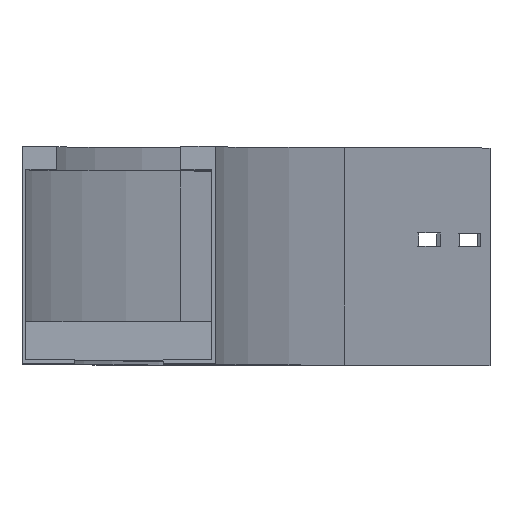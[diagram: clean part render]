
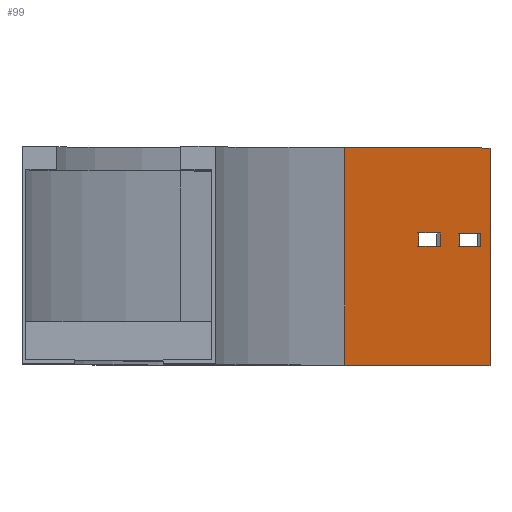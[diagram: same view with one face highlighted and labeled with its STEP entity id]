
A CAD part, top view. The second image highlights one B-rep face of the part: STEP entity #99.
In plain terms, the highlighted planar face has unit normal (0.866, 0, 0.5).
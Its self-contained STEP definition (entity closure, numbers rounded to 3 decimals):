
#7 = EDGE_CURVE ( 'NONE', #2096, #3637, #2735, .T. ) ;
#56 = DIRECTION ( 'NONE',  ( 0., 1., 0. ) ) ;
#66 = VERTEX_POINT ( 'NONE', #1250 ) ;
#92 = LINE ( 'NONE', #2972, #2050 ) ;
#99 = ADVANCED_FACE ( 'NONE', ( #3290, #1798, #3590 ), #2113, .F. ) ;
#103 = CARTESIAN_POINT ( 'NONE',  ( 141.987, 0., -529.904 ) ) ;
#143 = VECTOR ( 'NONE', #3185, 1000. ) ;
#153 = ORIENTED_EDGE ( 'NONE', *, *, #637, .F. ) ;
#199 = DIRECTION ( 'NONE',  ( 0., 1., 0. ) ) ;
#243 = VECTOR ( 'NONE', #199, 1000. ) ;
#285 = CARTESIAN_POINT ( 'NONE',  ( 141.987, 112.5, -529.904 ) ) ;
#317 = VECTOR ( 'NONE', #3155, 1000. ) ;
#472 = ORIENTED_EDGE ( 'NONE', *, *, #2457, .T. ) ;
#500 = DIRECTION ( 'NONE',  ( -0.5, 0., 0.866 ) ) ;
#515 = VECTOR ( 'NONE', #674, 1000. ) ;
#544 = DIRECTION ( 'NONE',  ( 0., -1., 0. ) ) ;
#577 = ORIENTED_EDGE ( 'NONE', *, *, #7, .F. ) ;
#597 = ORIENTED_EDGE ( 'NONE', *, *, #1086, .F. ) ;
#637 = EDGE_CURVE ( 'NONE', #2824, #3291, #1013, .T. ) ;
#643 = VECTOR ( 'NONE', #1902, 1000. ) ;
#645 = DIRECTION ( 'NONE',  ( -0.866, 0., -0.5 ) ) ;
#674 = DIRECTION ( 'NONE',  ( 0.5, 0., -0.866 ) ) ;
#692 = LINE ( 'NONE', #714, #643 ) ;
#714 = CARTESIAN_POINT ( 'NONE',  ( 137.07, 61.5, -521.386 ) ) ;
#733 = CARTESIAN_POINT ( 'NONE',  ( 66.987, 0., -400. ) ) ;
#770 = LINE ( 'NONE', #3690, #243 ) ;
#800 = LINE ( 'NONE', #1967, #2863 ) ;
#859 = CARTESIAN_POINT ( 'NONE',  ( 137.07, 61.5, -521.386 ) ) ;
#898 = EDGE_CURVE ( 'NONE', #2401, #967, #3004, .T. ) ;
#917 = DIRECTION ( 'NONE',  ( 0.5, 0., -0.866 ) ) ;
#967 = VERTEX_POINT ( 'NONE', #3272 ) ;
#991 = CARTESIAN_POINT ( 'NONE',  ( 137.07, 68.5, -521.386 ) ) ;
#1013 = LINE ( 'NONE', #991, #1115 ) ;
#1047 = DIRECTION ( 'NONE',  ( -0.5, 0., 0.866 ) ) ;
#1086 = EDGE_CURVE ( 'NONE', #3637, #2238, #3698, .T. ) ;
#1115 = VECTOR ( 'NONE', #1047, 1000. ) ;
#1130 = EDGE_CURVE ( 'NONE', #2096, #1513, #2226, .T. ) ;
#1134 = EDGE_LOOP ( 'NONE', ( #2204, #1679, #1495, #3531 ) ) ;
#1213 = EDGE_CURVE ( 'NONE', #1612, #66, #3459, .T. ) ;
#1250 = CARTESIAN_POINT ( 'NONE',  ( 116.235, 68.5, -485.299 ) ) ;
#1289 = CARTESIAN_POINT ( 'NONE',  ( 137.07, 68.5, -521.386 ) ) ;
#1492 = EDGE_CURVE ( 'NONE', #2496, #2923, #692, .T. ) ;
#1495 = ORIENTED_EDGE ( 'NONE', *, *, #2746, .F. ) ;
#1513 = VERTEX_POINT ( 'NONE', #103 ) ;
#1529 = ORIENTED_EDGE ( 'NONE', *, *, #2516, .F. ) ;
#1540 = CARTESIAN_POINT ( 'NONE',  ( 66.987, 0., -400. ) ) ;
#1612 = VERTEX_POINT ( 'NONE', #2297 ) ;
#1659 = CARTESIAN_POINT ( 'NONE',  ( 116.235, 68.5, -485.299 ) ) ;
#1679 = ORIENTED_EDGE ( 'NONE', *, *, #1213, .F. ) ;
#1784 = CARTESIAN_POINT ( 'NONE',  ( 66.987, 112.5, -400. ) ) ;
#1798 = FACE_BOUND ( 'NONE', #1134, .T. ) ;
#1812 = CARTESIAN_POINT ( 'NONE',  ( 105.235, 68.5, -466.247 ) ) ;
#1817 = DIRECTION ( 'NONE',  ( -0.5, 0., 0.866 ) ) ;
#1863 = VECTOR ( 'NONE', #2371, 1000. ) ;
#1865 = CARTESIAN_POINT ( 'NONE',  ( 66.987, 112.5, -400. ) ) ;
#1902 = DIRECTION ( 'NONE',  ( 0.5, 0., -0.866 ) ) ;
#1909 = CARTESIAN_POINT ( 'NONE',  ( 137.07, 68.5, -521.386 ) ) ;
#1915 = CARTESIAN_POINT ( 'NONE',  ( 105.235, 68.5, -466.247 ) ) ;
#1939 = CARTESIAN_POINT ( 'NONE',  ( 126.07, 61.5, -502.334 ) ) ;
#1967 = CARTESIAN_POINT ( 'NONE',  ( 116.235, 68.5, -485.299 ) ) ;
#1981 = ORIENTED_EDGE ( 'NONE', *, *, #3148, .F. ) ;
#1985 = DIRECTION ( 'NONE',  ( 0.5, 0., -0.866 ) ) ;
#2043 = VECTOR ( 'NONE', #56, 1000. ) ;
#2047 = EDGE_LOOP ( 'NONE', ( #597, #577, #2321, #472 ) ) ;
#2050 = VECTOR ( 'NONE', #917, 1000. ) ;
#2062 = VECTOR ( 'NONE', #1985, 1000. ) ;
#2096 = VERTEX_POINT ( 'NONE', #733 ) ;
#2113 = PLANE ( 'NONE',  #3038 ) ;
#2204 = ORIENTED_EDGE ( 'NONE', *, *, #3026, .F. ) ;
#2226 = LINE ( 'NONE', #2890, #2062 ) ;
#2238 = VERTEX_POINT ( 'NONE', #285 ) ;
#2269 = EDGE_LOOP ( 'NONE', ( #1529, #153, #1981, #3478 ) ) ;
#2294 = LINE ( 'NONE', #3255, #3745 ) ;
#2297 = CARTESIAN_POINT ( 'NONE',  ( 116.235, 61.5, -485.299 ) ) ;
#2321 = ORIENTED_EDGE ( 'NONE', *, *, #1130, .T. ) ;
#2371 = DIRECTION ( 'NONE',  ( 0., -1., 0. ) ) ;
#2401 = VERTEX_POINT ( 'NONE', #1915 ) ;
#2457 = EDGE_CURVE ( 'NONE', #1513, #2238, #770, .T. ) ;
#2496 = VERTEX_POINT ( 'NONE', #1939 ) ;
#2516 = EDGE_CURVE ( 'NONE', #3291, #2496, #2294, .T. ) ;
#2735 = LINE ( 'NONE', #1540, #2043 ) ;
#2746 = EDGE_CURVE ( 'NONE', #967, #1612, #92, .T. ) ;
#2824 = VERTEX_POINT ( 'NONE', #1909 ) ;
#2863 = VECTOR ( 'NONE', #500, 1000. ) ;
#2890 = CARTESIAN_POINT ( 'NONE',  ( 66.987, 0., -400. ) ) ;
#2923 = VERTEX_POINT ( 'NONE', #859 ) ;
#2972 = CARTESIAN_POINT ( 'NONE',  ( 116.235, 61.5, -485.299 ) ) ;
#3004 = LINE ( 'NONE', #1812, #1863 ) ;
#3026 = EDGE_CURVE ( 'NONE', #66, #2401, #800, .T. ) ;
#3038 = AXIS2_PLACEMENT_3D ( 'NONE', #3305, #645, #1817 ) ;
#3148 = EDGE_CURVE ( 'NONE', #2923, #2824, #3428, .T. ) ;
#3155 = DIRECTION ( 'NONE',  ( 0., 1., 0. ) ) ;
#3185 = DIRECTION ( 'NONE',  ( 0., 1., 0. ) ) ;
#3255 = CARTESIAN_POINT ( 'NONE',  ( 126.07, 68.5, -502.334 ) ) ;
#3272 = CARTESIAN_POINT ( 'NONE',  ( 105.235, 61.5, -466.247 ) ) ;
#3290 = FACE_BOUND ( 'NONE', #2269, .T. ) ;
#3291 = VERTEX_POINT ( 'NONE', #3805 ) ;
#3305 = CARTESIAN_POINT ( 'NONE',  ( 66.987, 0., -400. ) ) ;
#3428 = LINE ( 'NONE', #1289, #317 ) ;
#3459 = LINE ( 'NONE', #1659, #143 ) ;
#3478 = ORIENTED_EDGE ( 'NONE', *, *, #1492, .F. ) ;
#3531 = ORIENTED_EDGE ( 'NONE', *, *, #898, .F. ) ;
#3590 = FACE_OUTER_BOUND ( 'NONE', #2047, .T. ) ;
#3637 = VERTEX_POINT ( 'NONE', #1784 ) ;
#3690 = CARTESIAN_POINT ( 'NONE',  ( 141.987, 0., -529.904 ) ) ;
#3698 = LINE ( 'NONE', #1865, #515 ) ;
#3745 = VECTOR ( 'NONE', #544, 1000. ) ;
#3805 = CARTESIAN_POINT ( 'NONE',  ( 126.07, 68.5, -502.334 ) ) ;
